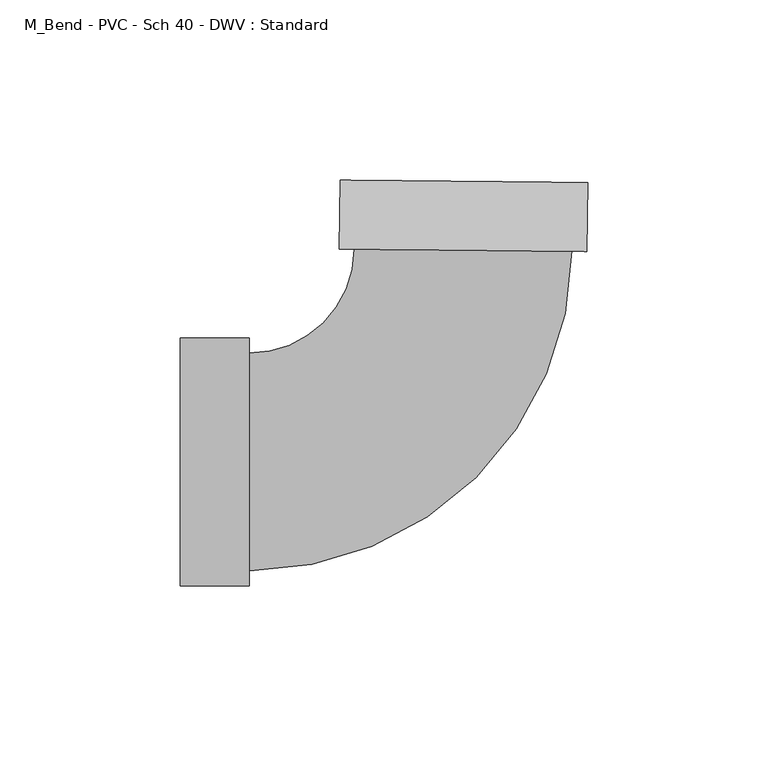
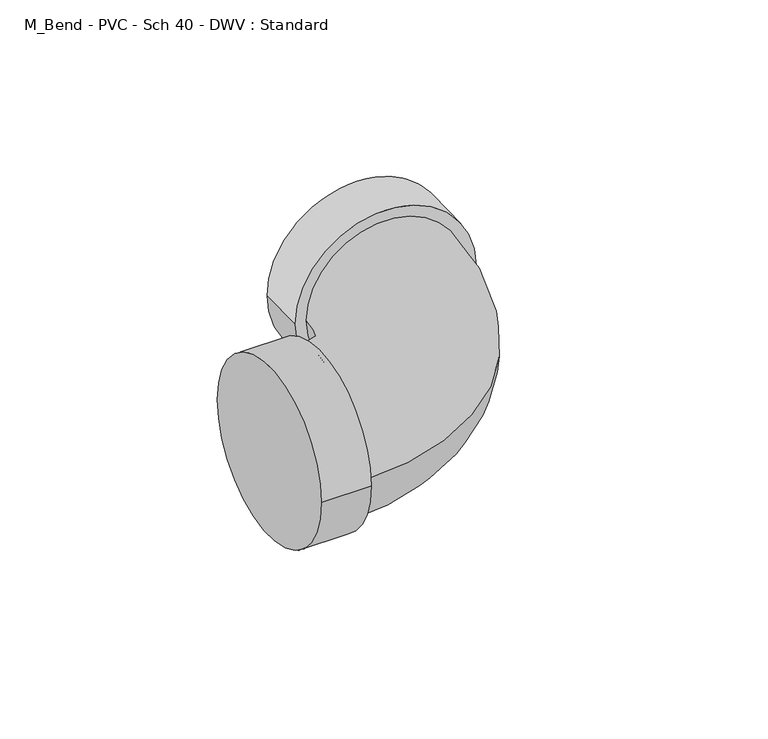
"""IFC4 building model written with IfcOpenShell, lengths in millimetres: pipe fitting geometry, M_Bend - PVC - Sch 40 - DWV : Standard."""

from ifc_helpers import new_model, si_unit, point, frame, origin, place, context, project, spatial, circle_curve, ellipse_curve, trimmed, source, transform, mapped, element, save
from ifc_brep_helpers import plane_surface, cylinder_surface, revolved_surface, advanced_brep


def m_bend_pvc_sch_40_dwv_standard_952ced8a(model_context):
    return source(origin(), model_context, "Body", "AdvancedBrep", [
        advanced_brep(
        [(-77.8002, -34.3154, 0.0), (-77.8002, 34.3154, 0.0), (-58.7502, -34.3154, 0.0), (-58.7502, 34.3154, 0.0), (-58.7502, -30.1625, 0.0), (-58.7502, 30.1625, 0.0), (-29.5735194, 59.0488726, 0.0), (30.7484646, 58.4456528, 0.0), (34.901157, 58.4041259, 0.0), (-33.7262117, 59.0903996, 0.0), (35.0916475, 77.4531734, 0.0), (-33.5357213, 78.1394471, 0.0)],
        [
            (0, 1, circle_curve(frame((-77.8002, 0.0, 0.0), z_axis=(-1.0, 0.0, 0.0), x_axis=(0.0, 1.0, 0.0)), 34.3154)),
            (1, 0, circle_curve(frame((-77.8002, 0.0, 0.0), z_axis=(-1.0, 0.0, 0.0), x_axis=(0.0, 1.0, 0.0)), 34.3154)),
            (2, 3, circle_curve(frame((-58.7502, 0.0, 0.0), z_axis=(1.0, 0.0, 0.0), x_axis=(0.0, 1.0, 0.0)), 34.3154)),
            (3, 2, circle_curve(frame((-58.7502, 0.0, 0.0), z_axis=(1.0, 0.0, 0.0), x_axis=(0.0, 1.0, 0.0)), 34.3154)),
            (4, 5, circle_curve(frame((-58.7502, 0.0, 0.0), z_axis=(-1.0, 0.0, 0.0), x_axis=(0.0, 1.0, 0.0)), 30.1625)),
            (5, 4, circle_curve(frame((-58.7502, 0.0, 0.0), z_axis=(-1.0, 0.0, 0.0), x_axis=(0.0, 1.0, 0.0)), 30.1625)),
            (0, 2),
            (3, 1),
            (6, 5, circle_curve(frame((-58.7502, 59.3406394, 0.0), z_axis=(0.0, 0.0, -1.0), x_axis=(0.0, -1.0, 0.0)), 29.1781394)),
            (4, 7, circle_curve(frame((-58.7502, 59.3406394, 0.0), z_axis=(0.0, 0.0, 1.0), x_axis=(0.0, -1.0, 0.0)), 89.5031394)),
            (7, 6, circle_curve(frame((0.5874726, 58.7472627, 0.0), z_axis=(-0.009999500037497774, -0.9999500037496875, 0.0), x_axis=(-0.9999500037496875, 0.009999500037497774, 0.0)), 30.1625)),
            (6, 7, circle_curve(frame((0.5874726, 58.7472627, 0.0), z_axis=(-0.009999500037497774, -0.9999500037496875, 0.0), x_axis=(-0.9999500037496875, 0.009999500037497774, 0.0)), 30.1625)),
            (8, 9, circle_curve(frame((0.5874726, 58.7472627, 0.0), z_axis=(-0.009999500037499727, -0.9999500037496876, 0.0), x_axis=(-0.9999500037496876, 0.009999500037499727, 0.0)), 34.3154)),
            (9, 8, circle_curve(frame((0.5874726, 58.7472627, 0.0), z_axis=(-0.009999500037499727, -0.9999500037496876, 0.0), x_axis=(-0.9999500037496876, 0.009999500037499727, 0.0)), 34.3154)),
            (10, 11, circle_curve(frame((0.7779631, 77.7963103, 0.0), z_axis=(0.009999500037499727, 0.9999500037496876, 0.0), x_axis=(-0.9999500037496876, 0.009999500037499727, 0.0)), 34.3154)),
            (11, 10, circle_curve(frame((0.7779631, 77.7963103, 0.0), z_axis=(0.009999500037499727, 0.9999500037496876, 0.0), x_axis=(-0.9999500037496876, 0.009999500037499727, 0.0)), 34.3154)),
            (8, 10),
            (11, 9),
        ],
        [
            plane_surface(frame((-77.8002, 0.0, 0.0), z_axis=(-1.0, 0.0, 0.0), x_axis=(0.0, 0.0, 1.0))),
            plane_surface(frame((-58.7502, 0.0, 0.0), z_axis=(1.0, 0.0, 0.0), x_axis=(0.0, 0.0, 1.0))),
            cylinder_surface(frame((-77.8002, 0.0, 0.0), z_axis=(-1.0, 0.0, 0.0), x_axis=(0.0, 1.0, 0.0)), 34.3154),
            revolved_surface(trimmed(ellipse_curve(frame((-58.7502, 0.0, 0.0), z_axis=(-1.0, 0.0, 0.0), x_axis=(0.0, 1.0, 0.0)), 30.1625, 30.1625), [point((-58.7502, -30.1625, 0.0))], [point((-58.7502, 30.1625, 0.0))], True, "CARTESIAN"), (-58.7502, 59.3406394, 0.0), (0.0, 0.0, 1.0)),
            revolved_surface(trimmed(ellipse_curve(frame((-58.7502, 0.0, 0.0), z_axis=(-1.0, 0.0, 0.0), x_axis=(0.0, 1.0, 0.0)), 30.1625, 30.1625), [point((-58.7502, 30.1625, 0.0))], [point((-58.7502, -30.1625, 0.0))], True, "CARTESIAN"), (-58.7502, 59.3406394, 0.0), (0.0, 0.0, 1.0)),
            plane_surface(frame((0.5874726, 58.7472627, 0.0), z_axis=(-0.009999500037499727, -0.9999500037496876, 0.0), x_axis=(0.0, 0.0, 1.0))),
            plane_surface(frame((0.7779631, 77.7963103, 0.0), z_axis=(0.009999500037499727, 0.9999500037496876, 0.0), x_axis=(0.0, 0.0, 1.0))),
            cylinder_surface(frame((0.5874726, 58.7472627, 0.0), z_axis=(-0.009999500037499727, -0.9999500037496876, 0.0), x_axis=(-0.9999500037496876, 0.009999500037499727, 0.0)), 34.3154),
        ],
        [
            (0, [[1, 2]]),
            (1, [[3, 4], [5, 6]]),
            (2, [[-1, 7, -4, 8]]),
            (2, [[-2, -8, -3, -7]]),
            (3, [[9, -5, 10, 11]]),
            (4, [[-9, 12, -10, -6]]),
            (5, [[13, 14], [-11, -12]]),
            (6, [[15, 16]]),
            (7, [[-13, 17, -16, 18]]),
            (7, [[-14, -18, -15, -17]]),
        ],
    ),
    ])


if __name__ == "__main__":
    model = new_model("IFC4")
    model_context = context("Model", 3, world=origin())
    ifc_project = project(units=[si_unit("LENGTHUNIT", "METRE", prefix="MILLI")], contexts=[model_context])
    site = spatial("IfcSite", under=ifc_project)
    building = spatial("IfcBuilding", under=site)
    placement = place(None, origin())
    m_bend_pvc_sch_40_dwv_standard_shape = m_bend_pvc_sch_40_dwv_standard_952ced8a(model_context)
    element("IfcPipeFitting", 1, ObjectType="M_Bend - PVC - Sch 40 - DWV : Standard", at=placement, inside=building, context=model_context, shape_type="MappedRepresentation", body=[
        mapped(m_bend_pvc_sch_40_dwv_standard_shape, transform((0.0, 0.0, 0.0), x_axis=(1.0, 0.0, 0.0), y_axis=(0.0, 1.0, 0.0), z_axis=(0.0, 0.0, 1.0))),
    ])
    save(model, "model.ifc")
